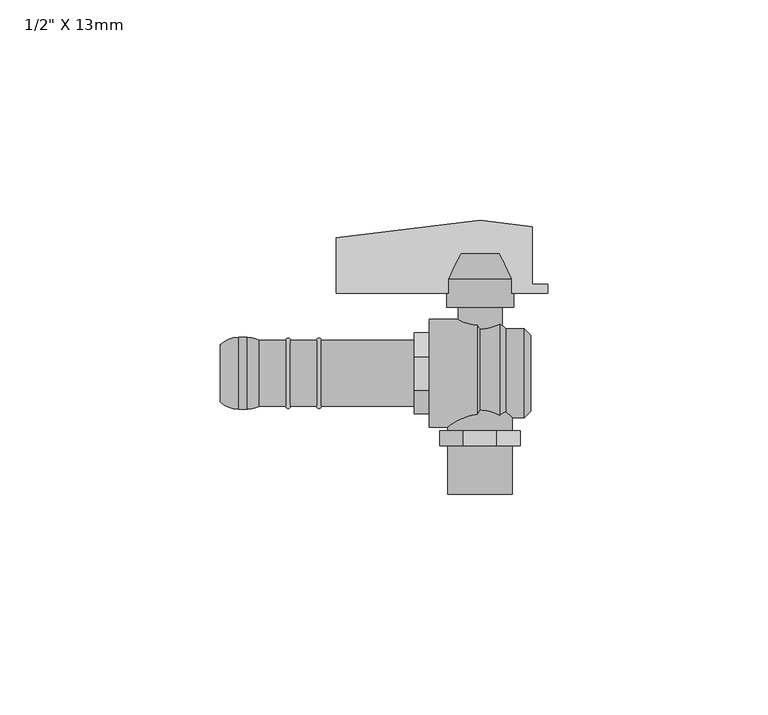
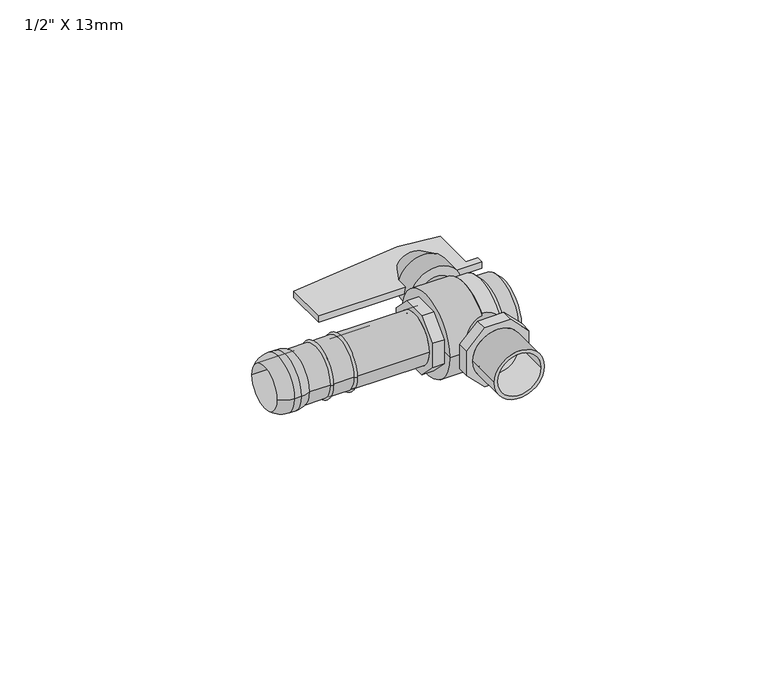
"""IFC4 building model written with IfcOpenShell, lengths in millimetres: pipe fitting geometry."""

from ifc_helpers import new_model, si_unit, point, frame, origin, origin_with_axes, origin_2d, place, context, project, spatial, polyline, circle_curve, ellipse_curve, trimmed, segment, composite_curve, outline, extrude, source, transform, mapped, element, save
from ifc_brep_helpers import plane_surface, cylinder_surface, revolved_surface, advanced_brep


def pipe_fitting_82b4f6c6(model_context):
    return source(origin(), model_context, "Body", "SolidModel", [
        extrude(outline(polyline([(-32.6275532, 18.225), (-32.6275532, 30.725), (0.0, 34.75), (11.8724468, 33.225), (11.8724468, 20.225), (15.3724468, 20.225), (15.3724468, 18.225), (-32.6275532, 18.225)])), origin_with_axes(), (0.0, 0.0, 1.0), 2.0),
        advanced_brep(
        [(-7.6, 15.0, 0.0), (7.6, 15.0, 0.0), (0.0, 15.0, 0.0), (0.0, 27.15, 0.0), (5.06, 27.15, 0.0), (-5.06, 27.15, 0.0), (7.6, 21.45, 0.0), (-7.6, 21.45, 0.0)],
        [
            (0, 1, circle_curve(frame((0.0, 15.0, 0.0), z_axis=(0.0, -1.0, 0.0), x_axis=(1.0, 0.0, 0.0)), 7.6)),
            (1, 2),
            (2, 0),
            (1, 0, circle_curve(frame((0.0, 15.0, 0.0), z_axis=(0.0, -1.0, 0.0), x_axis=(1.0, 0.0, 0.0)), 7.6)),
            (3, 4),
            (4, 5, circle_curve(frame((0.0, 27.15, 0.0), z_axis=(0.0, 1.0, 0.0), x_axis=(1.0, 0.0, 0.0)), 5.06)),
            (5, 3),
            (5, 4, circle_curve(frame((0.0, 27.15, 0.0), z_axis=(0.0, 1.0, 0.0), x_axis=(1.0, 0.0, 0.0)), 5.06)),
            (4, 6),
            (6, 7, circle_curve(frame((0.0, 21.45, 0.0), z_axis=(0.0, 1.0, 0.0), x_axis=(1.0, 0.0, 0.0)), 7.6)),
            (7, 5),
            (7, 6, circle_curve(frame((0.0, 21.45, 0.0), z_axis=(0.0, 1.0, 0.0), x_axis=(1.0, 0.0, 0.0)), 7.6)),
            (6, 1),
            (0, 7),
        ],
        [
            plane_surface(frame((0.0, 15.0, 0.0), z_axis=(0.0, -1.0, 0.0), x_axis=(1.0, 0.0, 0.0))),
            plane_surface(frame((0.0, 27.15, 0.0), z_axis=(0.0, 1.0, 0.0), x_axis=(1.0, 0.0, 0.0))),
            revolved_surface(polyline([(7.6, 21.45, 0.0), (5.06, 27.15, 0.0)]), (0.0, -2000.0, 0.0), (0.0, 1.0, 0.0)),
            cylinder_surface(frame((0.0, -2000.0, 0.0), z_axis=(0.0, 1.0, 0.0), x_axis=(1.0, 0.0, 0.0)), 7.6),
        ],
        [
            (0, [[1, 2, 3]]),
            (0, [[4, -3, -2]]),
            (1, [[5, 6, 7]]),
            (1, [[-7, 8, -5]]),
            (2, [[-6, 9, 10, 11]]),
            (2, [[-8, -11, 12, -9]]),
            (3, [[-10, 13, -1, 14]]),
            (3, [[-12, -14, -4, -13]]),
        ],
    ),
        extrude(outline(composite_curve([segment(trimmed(circle_curve(origin_2d(), 5.0), [point((0.0, -5.0))], [point((0.0, 5.0))], False, "CARTESIAN"), True, "CONTINUOUS"), segment(trimmed(circle_curve(origin_2d(), 5.0), [point((0.0, 5.0))], [point((0.0, -5.0))], False, "CARTESIAN"), True, "CONTINUOUS")], self_intersect=False)), frame((0.0, 0.0, 0.0), z_axis=(0.0, 1.0, 0.0), x_axis=(0.0, 0.0, 1.0)), (0.0, 0.0, 1.0), 15.0),
        extrude(outline(composite_curve([segment(trimmed(circle_curve(origin_2d(), 7.35), [point((0.0, -7.35))], [point((0.0, 7.35))], False, "CARTESIAN"), True, "CONTINUOUS"), segment(trimmed(circle_curve(origin_2d(), 7.35), [point((0.0, 7.35))], [point((0.0, -7.35))], False, "CARTESIAN"), True, "CONTINUOUS")], self_intersect=False), holes=[composite_curve([segment(trimmed(circle_curve(origin_2d(), 6.35), [point((0.0, -6.35))], [point((0.0, 6.35))], True, "CARTESIAN"), True, "CONTINUOUS"), segment(trimmed(circle_curve(origin_2d(), 6.35), [point((0.0, 6.35))], [point((0.0, -6.35))], True, "CARTESIAN"), True, "CONTINUOUS")], self_intersect=False)]), frame((0.0, -27.5, 0.0), z_axis=(0.0, 1.0, 0.0), x_axis=(0.0, 0.0, 1.0)), (0.0, 0.0, 1.0), 11.0),
        extrude(outline(polyline([(3.8, 9.1740115), (9.1740115, 3.8), (9.1740115, -3.8), (3.8, -9.1740115), (-3.8, -9.1740115), (-9.1740115, -3.8), (-9.1740115, 3.8), (-3.8, 9.1740115), (3.8, 9.1740115)]), holes=[composite_curve([segment(trimmed(circle_curve(origin_2d(), 7.35), [point((0.0, -7.35))], [point((0.0, 7.35))], True, "CARTESIAN"), True, "CONTINUOUS"), segment(trimmed(circle_curve(origin_2d(), 7.35), [point((0.0, 7.35))], [point((0.0, -7.35))], True, "CARTESIAN"), True, "CONTINUOUS")], self_intersect=False)]), frame((0.0, -16.5, 0.0), z_axis=(0.0, 1.0, 0.0), x_axis=(0.0, 0.0, 1.0)), (0.0, 0.0, 1.0), 3.5),
        extrude(outline(composite_curve([segment(trimmed(circle_curve(origin_2d(), 7.35), [point((0.0, -7.35))], [point((0.0, 7.35))], False, "CARTESIAN"), True, "CONTINUOUS"), segment(trimmed(circle_curve(origin_2d(), 7.35), [point((0.0, 7.35))], [point((0.0, -7.35))], False, "CARTESIAN"), True, "CONTINUOUS")], self_intersect=False)), frame((0.0, -13.0, 0.0), z_axis=(0.0, 1.0, 0.0), x_axis=(0.0, 0.0, 1.0)), (0.0, 0.0, 1.0), 13.0),
        advanced_brep(
        [(-36.0844657, -7.5, 0.0), (-36.0844657, 7.5, 0.0), (-15.0, 7.5, 0.0), (-15.0, -7.5, 0.0), (-43.0844657, -7.5, 0.0), (-43.0844657, 7.5, 0.0), (-37.0844657, 7.5, 0.0), (-37.0844657, -7.5, 0.0), (-50.0844657, -7.5, 0.0), (-50.0844657, 7.5, 0.0), (-44.0844657, 7.5, 0.0), (-44.0844657, -7.5, 0.0), (-52.8437497, -8.1718357, 0.0), (-52.8437497, 8.1718357, 0.0), (-15.0, -6.5, 0.0), (-15.0, 6.5, 0.0), (-59.0, 6.5, 0.0), (-59.0, -6.5, 0.0), (-54.8437497, -8.1718357, 0.0), (-54.8437497, 8.1718357, 0.0)],
        [
            (0, 1, circle_curve(frame((-36.0844657, 0.0, 0.0), z_axis=(1.0, 0.0, 0.0), x_axis=(0.0, 1.0, 0.0)), 7.5)),
            (1, 2),
            (2, 3, circle_curve(frame((-15.0, 0.0, 0.0), z_axis=(-1.0, 0.0, 0.0), x_axis=(0.0, 1.0, 0.0)), 7.5)),
            (3, 0),
            (1, 0, circle_curve(frame((-36.0844657, 0.0, 0.0), z_axis=(1.0, 0.0, 0.0), x_axis=(0.0, 1.0, 0.0)), 7.5)),
            (3, 2, circle_curve(frame((-15.0, 0.0, 0.0), z_axis=(-1.0, 0.0, 0.0), x_axis=(0.0, 1.0, 0.0)), 7.5)),
            (4, 5, circle_curve(frame((-43.0844657, 0.0, 0.0), z_axis=(1.0, 0.0, 0.0), x_axis=(0.0, 1.0, 0.0)), 7.5)),
            (5, 6),
            (6, 7, circle_curve(frame((-37.0844657, 0.0, 0.0), z_axis=(-1.0, 0.0, 0.0), x_axis=(0.0, 1.0, 0.0)), 7.5)),
            (7, 4),
            (5, 4, circle_curve(frame((-43.0844657, 0.0, 0.0), z_axis=(1.0, 0.0, 0.0), x_axis=(0.0, 1.0, 0.0)), 7.5)),
            (7, 6, circle_curve(frame((-37.0844657, 0.0, 0.0), z_axis=(-1.0, 0.0, 0.0), x_axis=(0.0, 1.0, 0.0)), 7.5)),
            (8, 9, circle_curve(frame((-50.0844657, 0.0, 0.0), z_axis=(1.0, 0.0, 0.0), x_axis=(0.0, 1.0, 0.0)), 7.5)),
            (9, 10),
            (10, 11, circle_curve(frame((-44.0844657, 0.0, 0.0), z_axis=(-1.0, 0.0, 0.0), x_axis=(0.0, 1.0, 0.0)), 7.5)),
            (11, 8),
            (9, 8, circle_curve(frame((-50.0844657, 0.0, 0.0), z_axis=(1.0, 0.0, 0.0), x_axis=(0.0, 1.0, 0.0)), 7.5)),
            (11, 10, circle_curve(frame((-44.0844657, 0.0, 0.0), z_axis=(-1.0, 0.0, 0.0), x_axis=(0.0, 1.0, 0.0)), 7.5)),
            (12, 13, circle_curve(frame((-52.8437497, 0.0, 0.0), z_axis=(1.0, 0.0, 0.0), x_axis=(0.0, 1.0, 0.0)), 8.1718357)),
            (13, 9, circle_curve(frame((-52.8437497, 2.1696156, 0.0), z_axis=(0.0, 0.0, -1.0), x_axis=(1.0, 0.0, 0.0)), 6.0022201)),
            (8, 12, circle_curve(frame((-52.8437497, -2.1696156, 0.0), z_axis=(0.0, 0.0, -1.0), x_axis=(1.0, 0.0, 0.0)), 6.0022201)),
            (13, 12, circle_curve(frame((-52.8437497, 0.0, 0.0), z_axis=(1.0, 0.0, 0.0), x_axis=(0.0, 1.0, 0.0)), 8.1718357)),
            (14, 15, circle_curve(frame((-15.0, 0.0, 0.0), z_axis=(1.0, 0.0, 0.0), x_axis=(0.0, 1.0, 0.0)), 6.5)),
            (15, 16),
            (16, 17, circle_curve(frame((-59.0, 0.0, 0.0), z_axis=(-1.0, 0.0, 0.0), x_axis=(0.0, 1.0, 0.0)), 6.5)),
            (17, 14),
            (15, 14, circle_curve(frame((-15.0, 0.0, 0.0), z_axis=(1.0, 0.0, 0.0), x_axis=(0.0, 1.0, 0.0)), 6.5)),
            (17, 16, circle_curve(frame((-59.0, 0.0, 0.0), z_axis=(-1.0, 0.0, 0.0), x_axis=(0.0, 1.0, 0.0)), 6.5)),
            (2, 15),
            (14, 3),
            (18, 19, circle_curve(frame((-54.8437497, 0.0, 0.0), z_axis=(1.0, 0.0, 0.0), x_axis=(0.0, 1.0, 0.0)), 8.1718357)),
            (19, 13),
            (12, 18),
            (19, 18, circle_curve(frame((-54.8437497, 0.0, 0.0), z_axis=(1.0, 0.0, 0.0), x_axis=(0.0, 1.0, 0.0)), 8.1718357)),
            (6, 1, circle_curve(frame((-36.5844657, 7.5, 0.0), z_axis=(0.0, 0.0, -1.0), x_axis=(1.0, 0.0, 0.0)), 0.5)),
            (0, 7, circle_curve(frame((-36.5844657, -7.5, 0.0), z_axis=(0.0, 0.0, -1.0), x_axis=(1.0, 0.0, 0.0)), 0.5)),
            (10, 5, circle_curve(frame((-43.5844657, 7.5, 0.0), z_axis=(0.0, 0.0, -1.0), x_axis=(1.0, 0.0, 0.0)), 0.5)),
            (4, 11, circle_curve(frame((-43.5844657, -7.5, 0.0), z_axis=(0.0, 0.0, -1.0), x_axis=(1.0, 0.0, 0.0)), 0.5)),
            (16, 19, circle_curve(frame((-54.8437497, 2.1696156, 0.0), z_axis=(0.0, 0.0, -1.0), x_axis=(1.0, 0.0, 0.0)), 6.0022201)),
            (18, 17, circle_curve(frame((-54.8437497, -2.1696156, 0.0), z_axis=(0.0, 0.0, -1.0), x_axis=(1.0, 0.0, 0.0)), 6.0022201)),
        ],
        [
            cylinder_surface(frame((-14.9950672, 0.0, 0.0), z_axis=(-1.0, 0.0, 0.0), x_axis=(0.0, 1.0, 0.0)), 7.5),
            revolved_surface(trimmed(ellipse_curve(frame((-52.8437497, 2.1696156, 0.0), z_axis=(0.0, 0.0, 1.0), x_axis=(1.0, 0.0, 0.0)), 6.0022201, 6.0022201), [point((-50.0844657, 7.5, 0.0))], [point((-52.8437497, 8.1718357, 0.0))], True, "CARTESIAN"), (-14.9950672, 0.0, 0.0), (-1.0, 0.0, 0.0)),
            revolved_surface(polyline([(-59.0, 6.5, 0.0), (-15.0, 6.5, 0.0)]), (-14.9950672, 0.0, 0.0), (-1.0, 0.0, 0.0)),
            plane_surface(frame((-15.0, 0.0, 0.0), z_axis=(1.0, 0.0, 0.0), x_axis=(0.0, 1.0, 0.0))),
            cylinder_surface(frame((-14.9950672, 0.0, 0.0), z_axis=(-1.0, 0.0, 0.0), x_axis=(0.0, 1.0, 0.0)), 8.1718357),
            revolved_surface(trimmed(ellipse_curve(frame((-36.5844657, 7.5, 0.0), z_axis=(0.0, 0.0, 1.0), x_axis=(1.0, 0.0, 0.0)), 0.5, 0.5), [point((-36.0844657, 7.5, 0.0))], [point((-37.0844657, 7.5, 0.0))], True, "CARTESIAN"), (-14.9950672, 0.0, 0.0), (-1.0, 0.0, 0.0)),
            revolved_surface(trimmed(ellipse_curve(frame((-43.5844657, 7.5, 0.0), z_axis=(0.0, 0.0, 1.0), x_axis=(1.0, 0.0, 0.0)), 0.5, 0.5), [point((-43.0844657, 7.5, 0.0))], [point((-44.0844657, 7.5, 0.0))], True, "CARTESIAN"), (-14.9950672, 0.0, 0.0), (-1.0, 0.0, 0.0)),
            revolved_surface(trimmed(ellipse_curve(frame((-54.8437497, 2.1696156, 0.0), z_axis=(0.0, 0.0, 1.0), x_axis=(1.0, 0.0, 0.0)), 6.0022201, 6.0022201), [point((-54.8437497, 8.1718357, 0.0))], [point((-59.0, 6.5, 0.0))], True, "CARTESIAN"), (-14.9950672, 0.0, 0.0), (-1.0, 0.0, 0.0)),
        ],
        [
            (0, [[1, 2, 3, 4]]),
            (0, [[5, -4, 6, -2]]),
            (0, [[7, 8, 9, 10]]),
            (0, [[11, -10, 12, -8]]),
            (0, [[13, 14, 15, 16]]),
            (0, [[17, -16, 18, -14]]),
            (1, [[19, 20, -13, 21]]),
            (1, [[22, -21, -17, -20]]),
            (2, [[23, 24, 25, 26]]),
            (2, [[27, -26, 28, -24]]),
            (3, [[-3, 29, -23, 30]]),
            (3, [[-6, -30, -27, -29]]),
            (4, [[31, 32, -19, 33]]),
            (4, [[34, -33, -22, -32]]),
            (5, [[-9, 35, -1, 36]]),
            (5, [[-12, -36, -5, -35]]),
            (6, [[-15, 37, -7, 38]]),
            (6, [[-18, -38, -11, -37]]),
            (7, [[-25, 39, -31, 40]]),
            (7, [[-28, -40, -34, -39]]),
        ],
    ),
        extrude(outline(polyline([(9.1740115, 3.8), (9.1740115, -3.8), (3.8, -9.1740115), (-3.8, -9.1740115), (-9.1740115, -3.8), (-9.1740115, 3.8), (-3.8, 9.1740115), (3.8, 9.1740115), (9.1740115, 3.8)]), holes=[composite_curve([segment(trimmed(circle_curve(origin_2d(), 7.5), [point((7.5, 0.0))], [point((-7.5, 0.0))], True, "CARTESIAN"), True, "CONTINUOUS"), segment(trimmed(circle_curve(origin_2d(), 7.5), [point((-7.5, 0.0))], [point((7.5, 0.0))], True, "CARTESIAN"), True, "CONTINUOUS")], self_intersect=False)]), frame((-15.0, 0.0, 0.0), z_axis=(1.0, 0.0, 0.0), x_axis=(0.0, 1.0, 0.0)), (0.0, 0.0, 1.0), 3.5),
        advanced_brep(
        [(-11.5, -12.25, 0.0), (-11.5, 12.25, 0.0), (-0.6614378, 12.25, 0.0), (-0.6614378, -12.25, 0.0), (-11.5, 0.0, 0.0), (0.0, -11.5, 0.0), (0.0, 11.5, 0.0), (4.4109254, 11.5, 0.0), (4.4109254, -11.5, 0.0), (5.8235643, 10.0842136, 0.0), (5.8235643, -10.0842136, 0.0), (10.0857864, -10.0842136, 0.0), (10.0857864, 10.0842136, 0.0), (11.5, 8.67, 0.0), (11.5, -8.67, 0.0), (11.5, 0.0, 0.0)],
        [
            (0, 1, circle_curve(frame((-11.5, 0.0, 0.0), z_axis=(1.0, 0.0, 0.0), x_axis=(0.0, 1.0, 0.0)), 12.25)),
            (1, 2),
            (2, 3, circle_curve(frame((-0.6614378, 0.0, 0.0), z_axis=(-1.0, 0.0, 0.0), x_axis=(0.0, 1.0, 0.0)), 12.25)),
            (3, 0),
            (1, 0, circle_curve(frame((-11.5, 0.0, 0.0), z_axis=(1.0, 0.0, 0.0), x_axis=(0.0, 1.0, 0.0)), 12.25)),
            (3, 2, circle_curve(frame((-0.6614378, 0.0, 0.0), z_axis=(-1.0, 0.0, 0.0), x_axis=(0.0, 1.0, 0.0)), 12.25)),
            (4, 1),
            (0, 4),
            (5, 6, circle_curve(frame((0.0, 0.0, 0.0), z_axis=(1.0, 0.0, 0.0), x_axis=(0.0, 1.0, 0.0)), 11.5)),
            (6, 7),
            (7, 8, circle_curve(frame((4.4109254, 0.0, 0.0), z_axis=(-1.0, 0.0, 0.0), x_axis=(0.0, 1.0, 0.0)), 11.5)),
            (8, 5),
            (6, 5, circle_curve(frame((0.0, 0.0, 0.0), z_axis=(1.0, 0.0, 0.0), x_axis=(0.0, 1.0, 0.0)), 11.5)),
            (8, 7, circle_curve(frame((4.4109254, 0.0, 0.0), z_axis=(-1.0, 0.0, 0.0), x_axis=(0.0, 1.0, 0.0)), 11.5)),
            (7, 9),
            (9, 10, circle_curve(frame((5.8235643, 0.0, 0.0), z_axis=(-1.0, 0.0, 0.0), x_axis=(0.0, 1.0, 0.0)), 10.0842136)),
            (10, 8),
            (10, 9, circle_curve(frame((5.8235643, 0.0, 0.0), z_axis=(-1.0, 0.0, 0.0), x_axis=(0.0, 1.0, 0.0)), 10.0842136)),
            (2, 6),
            (5, 3),
            (11, 12, circle_curve(frame((10.0857864, 0.0, 0.0), z_axis=(1.0, 0.0, 0.0), x_axis=(0.0, 1.0, 0.0)), 10.0842136)),
            (12, 13),
            (13, 14, circle_curve(frame((11.5, 0.0, 0.0), z_axis=(-1.0, 0.0, 0.0), x_axis=(0.0, 1.0, 0.0)), 8.67)),
            (14, 11),
            (12, 11, circle_curve(frame((10.0857864, 0.0, 0.0), z_axis=(1.0, 0.0, 0.0), x_axis=(0.0, 1.0, 0.0)), 10.0842136)),
            (14, 13, circle_curve(frame((11.5, 0.0, 0.0), z_axis=(-1.0, 0.0, 0.0), x_axis=(0.0, 1.0, 0.0)), 8.67)),
            (9, 12),
            (11, 10),
            (13, 15),
            (15, 14),
        ],
        [
            cylinder_surface(frame((1991.2869923, 0.0, 0.0), z_axis=(-1.0, 0.0, 0.0), x_axis=(0.0, 1.0, 0.0)), 12.25),
            plane_surface(frame((-11.5, 0.0, 0.0), z_axis=(-1.0, 0.0, 0.0), x_axis=(0.0, 1.0, 0.0))),
            cylinder_surface(frame((1991.2869923, 0.0, 0.0), z_axis=(-1.0, 0.0, 0.0), x_axis=(0.0, 1.0, 0.0)), 11.5),
            revolved_surface(polyline([(5.8235643, 10.0842136, 0.0), (4.4109254, 11.5, 0.0)]), (1991.2869923, 0.0, 0.0), (-1.0, 0.0, 0.0)),
            revolved_surface(polyline([(0.0, 11.5, 0.0), (-0.6614378, 12.25, 0.0)]), (1991.2869923, 0.0, 0.0), (-1.0, 0.0, 0.0)),
            revolved_surface(polyline([(11.5, 8.67, 0.0), (10.0857864, 10.0842136, 0.0)]), (1991.2869923, 0.0, 0.0), (-1.0, 0.0, 0.0)),
            cylinder_surface(frame((1991.2869923, 0.0, 0.0), z_axis=(-1.0, 0.0, 0.0), x_axis=(0.0, 1.0, 0.0)), 10.0842136),
            plane_surface(frame((11.5, 0.0, 0.0), z_axis=(1.0, 0.0, 0.0), x_axis=(0.0, 1.0, 0.0))),
        ],
        [
            (0, [[1, 2, 3, 4]]),
            (0, [[5, -4, 6, -2]]),
            (1, [[7, -1, 8]]),
            (1, [[-8, -5, -7]]),
            (2, [[9, 10, 11, 12]]),
            (2, [[13, -12, 14, -10]]),
            (3, [[-11, 15, 16, 17]]),
            (3, [[-14, -17, 18, -15]]),
            (4, [[-3, 19, -9, 20]]),
            (4, [[-6, -20, -13, -19]]),
            (5, [[21, 22, 23, 24]]),
            (5, [[25, -24, 26, -22]]),
            (6, [[-16, 27, -21, 28]]),
            (6, [[-18, -28, -25, -27]]),
            (7, [[-23, 29, 30]]),
            (7, [[-26, -30, -29]]),
        ],
    ),
    ])


if __name__ == "__main__":
    model = new_model("IFC4")
    model_context = context("Model", 3, world=origin())
    ifc_project = project(units=[si_unit("LENGTHUNIT", "METRE", prefix="MILLI")], contexts=[model_context])
    site = spatial("IfcSite", under=ifc_project)
    building = spatial("IfcBuilding", under=site)
    placement = place(None, origin())
    pipe_fitting_shape = pipe_fitting_82b4f6c6(model_context)
    element("IfcPipeFitting", 1, ObjectType="AmancoWavin_Gas_Válvula Angular Mangueira GN Alavanca : 1/2\" X 13mm", at=placement, inside=building, context=model_context, shape_type="MappedRepresentation", body=[
        mapped(pipe_fitting_shape, transform((0.0, 0.0, 0.0), x_axis=(1.0, 0.0, 0.0), y_axis=(0.0, 1.0, 0.0), z_axis=(0.0, 0.0, 1.0))),
    ])
    save(model, "model.ifc")
